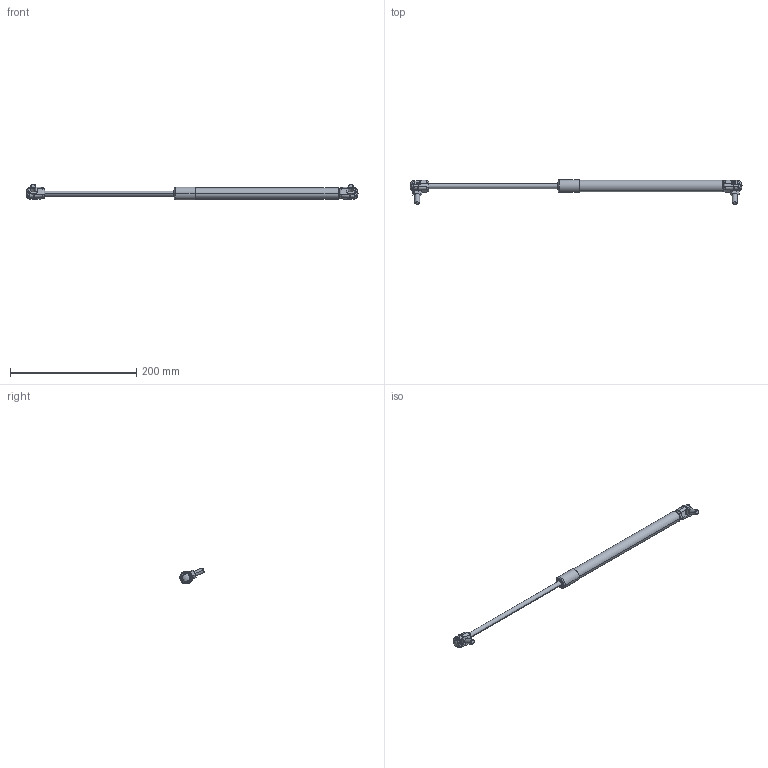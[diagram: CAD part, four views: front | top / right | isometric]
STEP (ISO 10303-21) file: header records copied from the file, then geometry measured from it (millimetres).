
FILE_DESCRIPTION (( 'STEP AP203' ), '1' );
FILE_NAME ('Gas Strut 502mm.STEP', '2025-04-03T09:46:10', ( '' ), ( '' ), 'SwSTEP 2.0', 'SolidWorks 2024', '' );
FILE_SCHEMA (( 'CONFIG_CONTROL_DESIGN' ));
Length unit declared in the file: millimetre
Products named in the file (5): 装配体4; qiutao（新）; 18qitanhuang  -shenzhan; Gas Strut 502mm; QD16-M8-12
Assembly tree (6 placements, depth 3):
  Gas Strut 502mm
    装配体4
      18qitanhuang  -shenzhan
    qiutao（新）  x2
    QD16-M8-12  x2
Bounding box: 524.96 x 38.79 x 25.01 mm (x, y, z)
Volume: 94081.5 mm3; surface area: 30213 mm2
Topology: 7 solids, 7 shells, 547 faces, 1546 edges, 992 vertices
Faces by surface type: bspline 218, cylinder 158, plane 125, torus 20, cone 18, sphere 8
Entity records: 13218 total; most frequent: CARTESIAN_POINT 6283, ORIENTED_EDGE 1574, DIRECTION 1020, EDGE_CURVE 787, VERTEX_POINT 512, AXIS2_PLACEMENT_3D 394, B_SPLINE_CURVE_WITH_KNOTS 323, EDGE_LOOP 299
